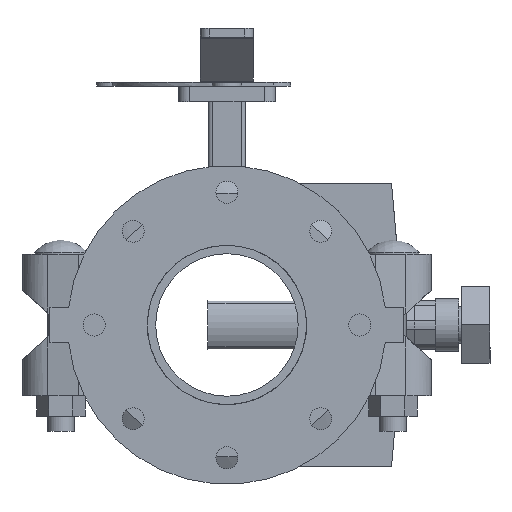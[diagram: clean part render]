
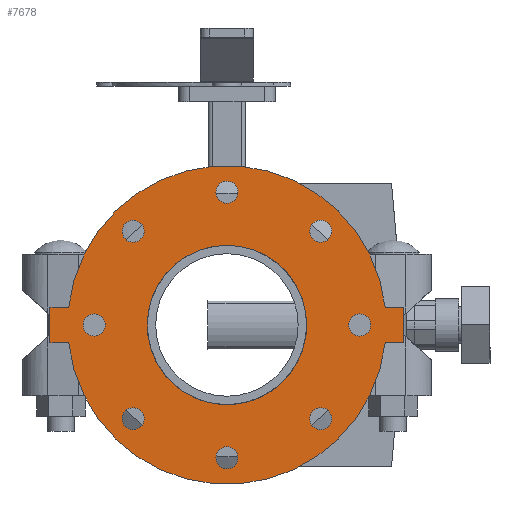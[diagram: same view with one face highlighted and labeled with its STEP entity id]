
A CAD part, front view. The second image highlights one B-rep face of the part: STEP entity #7678.
In plain terms, the highlighted planar face has unit normal (0, -1, 0) as drawn and (0, 0, -1) by its records, which use the part's own axes.
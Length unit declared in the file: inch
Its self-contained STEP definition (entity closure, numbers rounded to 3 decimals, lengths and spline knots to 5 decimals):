
#202=FACE_BOUND('',#979,.T.);
#203=FACE_BOUND('',#980,.T.);
#204=FACE_BOUND('',#981,.T.);
#205=FACE_BOUND('',#982,.T.);
#206=FACE_BOUND('',#983,.T.);
#207=FACE_BOUND('',#984,.T.);
#208=FACE_BOUND('',#985,.T.);
#209=FACE_BOUND('',#986,.T.);
#210=FACE_BOUND('',#987,.T.);
#303=PLANE('',#8318);
#555=FACE_OUTER_BOUND('',#978,.T.);
#978=EDGE_LOOP('',(#4943,#4944,#4945,#4946,#4947,#4948,#4949,#4950));
#979=EDGE_LOOP('',(#4951));
#980=EDGE_LOOP('',(#4952));
#981=EDGE_LOOP('',(#4953));
#982=EDGE_LOOP('',(#4954));
#983=EDGE_LOOP('',(#4955));
#984=EDGE_LOOP('',(#4956));
#985=EDGE_LOOP('',(#4957));
#986=EDGE_LOOP('',(#4958));
#987=EDGE_LOOP('',(#4959,#4960));
#1502=LINE('',#11685,#2080);
#1503=LINE('',#11687,#2081);
#1504=LINE('',#11689,#2082);
#1505=LINE('',#11693,#2083);
#1506=LINE('',#11695,#2084);
#1507=LINE('',#11696,#2085);
#2080=VECTOR('',#9276,0.3937);
#2081=VECTOR('',#9277,0.3937);
#2082=VECTOR('',#9278,0.3937);
#2083=VECTOR('',#9281,0.3937);
#2084=VECTOR('',#9282,0.3937);
#2085=VECTOR('',#9283,0.3937);
#2651=CIRCLE('',#8296,0.3125);
#2653=CIRCLE('',#8299,0.3125);
#2655=CIRCLE('',#8302,0.3125);
#2657=CIRCLE('',#8305,0.3125);
#2659=CIRCLE('',#8308,0.3125);
#2661=CIRCLE('',#8311,0.3125);
#2663=CIRCLE('',#8314,0.3125);
#2665=CIRCLE('',#8317,0.3125);
#2666=CIRCLE('',#8319,4.5);
#2667=CIRCLE('',#8320,4.5);
#2668=CIRCLE('',#8321,2.25);
#2669=CIRCLE('',#8322,2.25);
#3092=VERTEX_POINT('',#11635);
#3094=VERTEX_POINT('',#11641);
#3096=VERTEX_POINT('',#11647);
#3098=VERTEX_POINT('',#11653);
#3100=VERTEX_POINT('',#11659);
#3102=VERTEX_POINT('',#11665);
#3104=VERTEX_POINT('',#11671);
#3106=VERTEX_POINT('',#11677);
#3107=VERTEX_POINT('',#11681);
#3108=VERTEX_POINT('',#11682);
#3109=VERTEX_POINT('',#11684);
#3110=VERTEX_POINT('',#11686);
#3111=VERTEX_POINT('',#11688);
#3112=VERTEX_POINT('',#11690);
#3113=VERTEX_POINT('',#11692);
#3114=VERTEX_POINT('',#11694);
#3115=VERTEX_POINT('',#11697);
#3116=VERTEX_POINT('',#11698);
#3826=EDGE_CURVE('',#3092,#3092,#2651,.T.);
#3829=EDGE_CURVE('',#3094,#3094,#2653,.T.);
#3832=EDGE_CURVE('',#3096,#3096,#2655,.T.);
#3835=EDGE_CURVE('',#3098,#3098,#2657,.T.);
#3838=EDGE_CURVE('',#3100,#3100,#2659,.T.);
#3841=EDGE_CURVE('',#3102,#3102,#2661,.T.);
#3844=EDGE_CURVE('',#3104,#3104,#2663,.T.);
#3847=EDGE_CURVE('',#3106,#3106,#2665,.T.);
#3848=EDGE_CURVE('',#3107,#3108,#2666,.T.);
#3849=EDGE_CURVE('',#3108,#3109,#1502,.T.);
#3850=EDGE_CURVE('',#3109,#3110,#1503,.T.);
#3851=EDGE_CURVE('',#3110,#3111,#1504,.T.);
#3852=EDGE_CURVE('',#3111,#3112,#2667,.T.);
#3853=EDGE_CURVE('',#3112,#3113,#1505,.T.);
#3854=EDGE_CURVE('',#3113,#3114,#1506,.T.);
#3855=EDGE_CURVE('',#3114,#3107,#1507,.T.);
#3856=EDGE_CURVE('',#3115,#3116,#2668,.T.);
#3857=EDGE_CURVE('',#3116,#3115,#2669,.T.);
#4943=ORIENTED_EDGE('',*,*,#3848,.T.);
#4944=ORIENTED_EDGE('',*,*,#3849,.T.);
#4945=ORIENTED_EDGE('',*,*,#3850,.T.);
#4946=ORIENTED_EDGE('',*,*,#3851,.T.);
#4947=ORIENTED_EDGE('',*,*,#3852,.T.);
#4948=ORIENTED_EDGE('',*,*,#3853,.T.);
#4949=ORIENTED_EDGE('',*,*,#3854,.T.);
#4950=ORIENTED_EDGE('',*,*,#3855,.T.);
#4951=ORIENTED_EDGE('',*,*,#3826,.T.);
#4952=ORIENTED_EDGE('',*,*,#3829,.T.);
#4953=ORIENTED_EDGE('',*,*,#3832,.T.);
#4954=ORIENTED_EDGE('',*,*,#3835,.T.);
#4955=ORIENTED_EDGE('',*,*,#3838,.T.);
#4956=ORIENTED_EDGE('',*,*,#3841,.T.);
#4957=ORIENTED_EDGE('',*,*,#3844,.T.);
#4958=ORIENTED_EDGE('',*,*,#3847,.T.);
#4959=ORIENTED_EDGE('',*,*,#3856,.T.);
#4960=ORIENTED_EDGE('',*,*,#3857,.T.);
#7678=ADVANCED_FACE('',(#555,#202,#203,#204,#205,#206,#207,#208,#209,#210),
#303,.T.);
#8296=AXIS2_PLACEMENT_3D('',#11637,#9221,#9222);
#8299=AXIS2_PLACEMENT_3D('',#11643,#9228,#9229);
#8302=AXIS2_PLACEMENT_3D('',#11649,#9235,#9236);
#8305=AXIS2_PLACEMENT_3D('',#11655,#9242,#9243);
#8308=AXIS2_PLACEMENT_3D('',#11661,#9249,#9250);
#8311=AXIS2_PLACEMENT_3D('',#11667,#9256,#9257);
#8314=AXIS2_PLACEMENT_3D('',#11673,#9263,#9264);
#8317=AXIS2_PLACEMENT_3D('',#11679,#9270,#9271);
#8318=AXIS2_PLACEMENT_3D('',#11680,#9272,#9273);
#8319=AXIS2_PLACEMENT_3D('',#11683,#9274,#9275);
#8320=AXIS2_PLACEMENT_3D('',#11691,#9279,#9280);
#8321=AXIS2_PLACEMENT_3D('',#11699,#9284,#9285);
#8322=AXIS2_PLACEMENT_3D('',#11700,#9286,#9287);
#9221=DIRECTION('center_axis',(0.,0.,1.));
#9222=DIRECTION('ref_axis',(-0.707,0.707,0.));
#9228=DIRECTION('center_axis',(0.,0.,1.));
#9229=DIRECTION('ref_axis',(0.,1.,0.));
#9235=DIRECTION('center_axis',(0.,0.,1.));
#9236=DIRECTION('ref_axis',(0.707,0.707,0.));
#9242=DIRECTION('center_axis',(0.,0.,1.));
#9243=DIRECTION('ref_axis',(1.,0.,0.));
#9249=DIRECTION('center_axis',(0.,0.,1.));
#9250=DIRECTION('ref_axis',(0.707,-0.707,0.));
#9256=DIRECTION('center_axis',(0.,0.,1.));
#9257=DIRECTION('ref_axis',(0.,-1.,0.));
#9263=DIRECTION('center_axis',(0.,0.,1.));
#9264=DIRECTION('ref_axis',(-0.707,-0.707,0.));
#9270=DIRECTION('center_axis',(0.,0.,1.));
#9271=DIRECTION('ref_axis',(-1.,0.,0.));
#9272=DIRECTION('center_axis',(0.,0.,-1.));
#9273=DIRECTION('ref_axis',(-1.,0.,0.));
#9274=DIRECTION('center_axis',(0.,0.,-1.));
#9275=DIRECTION('ref_axis',(-1.,0.,0.));
#9276=DIRECTION('',(0.,1.,0.));
#9277=DIRECTION('',(1.,0.,0.));
#9278=DIRECTION('',(0.,-1.,0.));
#9279=DIRECTION('center_axis',(0.,0.,-1.));
#9280=DIRECTION('ref_axis',(-1.,0.,0.));
#9281=DIRECTION('',(0.,-1.,0.));
#9282=DIRECTION('',(-1.,0.,0.));
#9283=DIRECTION('',(0.,1.,0.));
#9284=DIRECTION('center_axis',(0.,0.,1.));
#9285=DIRECTION('ref_axis',(-1.,0.,0.));
#9286=DIRECTION('center_axis',(0.,0.,1.));
#9287=DIRECTION('ref_axis',(-1.,0.,0.));
#11635=CARTESIAN_POINT('',(-2.43068,2.43068,-0.5));
#11637=CARTESIAN_POINT('Origin',(-2.65165,2.65165,-0.5));
#11641=CARTESIAN_POINT('',(0.,3.4375,-0.5));
#11643=CARTESIAN_POINT('Origin',(0.,3.75,-0.5));
#11647=CARTESIAN_POINT('',(2.43068,2.43068,-0.5));
#11649=CARTESIAN_POINT('Origin',(2.65165,2.65165,-0.5));
#11653=CARTESIAN_POINT('',(3.4375,0.,-0.5));
#11655=CARTESIAN_POINT('Origin',(3.75,0.,-0.5));
#11659=CARTESIAN_POINT('',(2.43068,-2.43068,-0.5));
#11661=CARTESIAN_POINT('Origin',(2.65165,-2.65165,-0.5));
#11665=CARTESIAN_POINT('',(0.,-3.4375,-0.5));
#11667=CARTESIAN_POINT('Origin',(0.,-3.75,-0.5));
#11671=CARTESIAN_POINT('',(-2.43068,-2.43068,-0.5));
#11673=CARTESIAN_POINT('Origin',(-2.65165,-2.65165,-0.5));
#11677=CARTESIAN_POINT('',(-3.4375,0.,-0.5));
#11679=CARTESIAN_POINT('Origin',(-3.75,0.,-0.5));
#11680=CARTESIAN_POINT('Origin',(0.,0.,-0.5));
#11681=CARTESIAN_POINT('',(-0.5,-4.47214,-0.5));
#11682=CARTESIAN_POINT('',(-0.5,4.47214,-0.5));
#11683=CARTESIAN_POINT('Origin',(0.,0.,-0.5));
#11684=CARTESIAN_POINT('',(-0.5,5.,-0.5));
#11685=CARTESIAN_POINT('',(-0.5,-5.,-0.5));
#11686=CARTESIAN_POINT('',(0.5,5.,-0.5));
#11687=CARTESIAN_POINT('',(-0.5,5.,-0.5));
#11688=CARTESIAN_POINT('',(0.5,4.47214,-0.5));
#11689=CARTESIAN_POINT('',(0.5,5.,-0.5));
#11690=CARTESIAN_POINT('',(0.5,-4.47214,-0.5));
#11691=CARTESIAN_POINT('Origin',(0.,0.,-0.5));
#11692=CARTESIAN_POINT('',(0.5,-5.,-0.5));
#11693=CARTESIAN_POINT('',(0.5,5.,-0.5));
#11694=CARTESIAN_POINT('',(-0.5,-5.,-0.5));
#11695=CARTESIAN_POINT('',(0.5,-5.,-0.5));
#11696=CARTESIAN_POINT('',(-0.5,-5.,-0.5));
#11697=CARTESIAN_POINT('',(0.5,2.19374,-0.5));
#11698=CARTESIAN_POINT('',(2.25,0.,-0.5));
#11699=CARTESIAN_POINT('Origin',(0.,0.,-0.5));
#11700=CARTESIAN_POINT('Origin',(0.,0.,-0.5));
